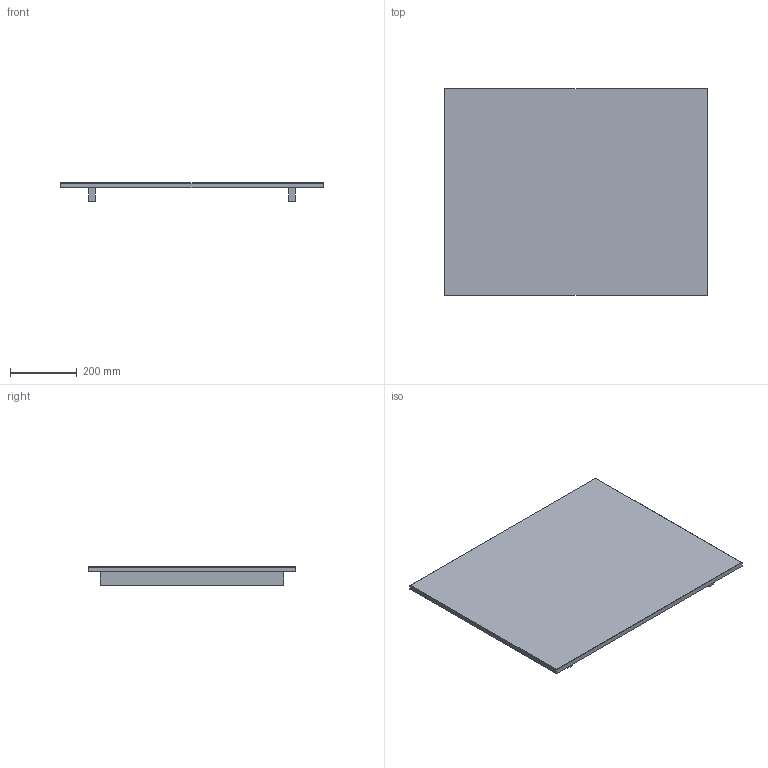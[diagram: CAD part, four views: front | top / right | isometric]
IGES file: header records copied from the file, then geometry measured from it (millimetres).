
Global section: file name: 80012; native system: Autodesk Inventor 2014; preprocessor: unknown; author: ARCH.CARLO COLOMBO; date: 20140526.111414; units: millimetre
Bounding box: 788 x 620 x 55 mm (x, y, z)
Volume: 8201840.5 mm3; surface area: 1154326.5 mm2
Topology: 3 solids, 3 shells, 40 faces, 104 edges, 70 vertices
Faces by surface type: bspline 40
